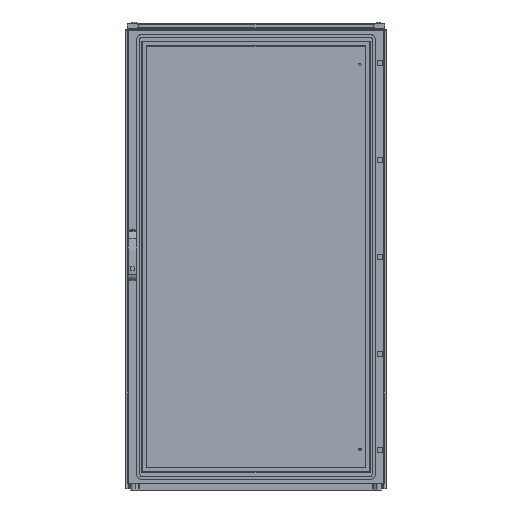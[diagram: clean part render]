
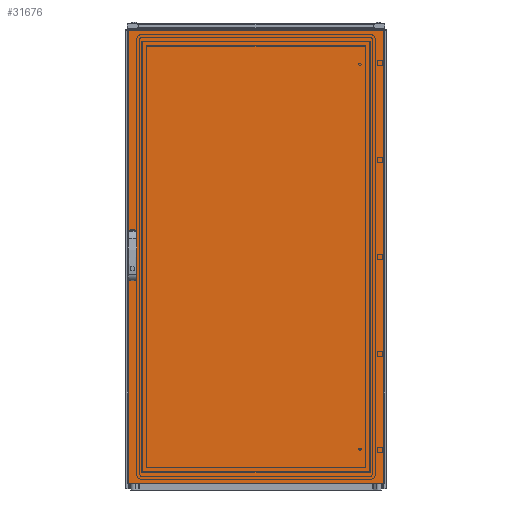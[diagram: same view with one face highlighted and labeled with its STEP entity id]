
A CAD part, front view. The second image highlights one B-rep face of the part: STEP entity #31676.
In plain terms, the highlighted planar face has unit normal (0, -1, 0).
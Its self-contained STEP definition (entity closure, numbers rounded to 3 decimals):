
#1962=CIRCLE('',#34429,9.5);
#1963=CIRCLE('',#34430,9.5);
#1964=CIRCLE('',#34431,9.5);
#1965=CIRCLE('',#34432,9.5);
#8044=ORIENTED_EDGE('',*,*,#14324,.T.);
#8045=ORIENTED_EDGE('',*,*,#14325,.T.);
#8046=ORIENTED_EDGE('',*,*,#14326,.T.);
#8047=ORIENTED_EDGE('',*,*,#14327,.T.);
#8048=ORIENTED_EDGE('',*,*,#14328,.T.);
#8049=ORIENTED_EDGE('',*,*,#14329,.T.);
#8050=ORIENTED_EDGE('',*,*,#14330,.T.);
#8051=ORIENTED_EDGE('',*,*,#14331,.T.);
#8052=ORIENTED_EDGE('',*,*,#14332,.T.);
#8053=ORIENTED_EDGE('',*,*,#14333,.T.);
#8054=ORIENTED_EDGE('',*,*,#14334,.T.);
#8055=ORIENTED_EDGE('',*,*,#14335,.T.);
#14324=EDGE_CURVE('',#17955,#17956,#20949,.T.);
#14325=EDGE_CURVE('',#17956,#17957,#20950,.T.);
#14326=EDGE_CURVE('',#17957,#17958,#20951,.F.);
#14327=EDGE_CURVE('',#17958,#17955,#20952,.F.);
#14328=EDGE_CURVE('',#17959,#17960,#1962,.T.);
#14329=EDGE_CURVE('',#17960,#17961,#20953,.T.);
#14330=EDGE_CURVE('',#17961,#17962,#1963,.T.);
#14331=EDGE_CURVE('',#17962,#17959,#20954,.T.);
#14332=EDGE_CURVE('',#17963,#17964,#1964,.T.);
#14333=EDGE_CURVE('',#17964,#17965,#20955,.T.);
#14334=EDGE_CURVE('',#17965,#17966,#1965,.T.);
#14335=EDGE_CURVE('',#17966,#17963,#20956,.T.);
#17955=VERTEX_POINT('',#51174);
#17956=VERTEX_POINT('',#51175);
#17957=VERTEX_POINT('',#51177);
#17958=VERTEX_POINT('',#51179);
#17959=VERTEX_POINT('',#51182);
#17960=VERTEX_POINT('',#51183);
#17961=VERTEX_POINT('',#51185);
#17962=VERTEX_POINT('',#51187);
#17963=VERTEX_POINT('',#51190);
#17964=VERTEX_POINT('',#51191);
#17965=VERTEX_POINT('',#51193);
#17966=VERTEX_POINT('',#51195);
#20949=LINE('',#51173,#23656);
#20950=LINE('',#51176,#23657);
#20951=LINE('',#51178,#23658);
#20952=LINE('',#51180,#23659);
#20953=LINE('',#51184,#23660);
#20954=LINE('',#51188,#23661);
#20955=LINE('',#51192,#23662);
#20956=LINE('',#51196,#23663);
#23656=VECTOR('',#41546,1000.);
#23657=VECTOR('',#41547,1000.);
#23658=VECTOR('',#41548,1000.);
#23659=VECTOR('',#41549,1000.);
#23660=VECTOR('',#41552,1000.);
#23661=VECTOR('',#41555,1000.);
#23662=VECTOR('',#41558,1000.);
#23663=VECTOR('',#41561,1000.);
#25970=EDGE_LOOP('',(#8044,#8045,#8046,#8047));
#25971=EDGE_LOOP('',(#8048,#8049,#8050,#8051));
#25972=EDGE_LOOP('',(#8052,#8053,#8054,#8055));
#28568=FACE_BOUND('',#25970,.T.);
#28569=FACE_BOUND('',#25971,.T.);
#28570=FACE_BOUND('',#25972,.T.);
#30377=PLANE('',#34428);
#31676=ADVANCED_FACE('',(#28568,#28569,#28570),#30377,.F.);
#34428=AXIS2_PLACEMENT_3D('',#51172,#41544,#41545);
#34429=AXIS2_PLACEMENT_3D('',#51181,#41550,#41551);
#34430=AXIS2_PLACEMENT_3D('',#51186,#41553,#41554);
#34431=AXIS2_PLACEMENT_3D('',#51189,#41556,#41557);
#34432=AXIS2_PLACEMENT_3D('',#51194,#41559,#41560);
#41544=DIRECTION('',(0.,1.,0.));
#41545=DIRECTION('',(0.,0.,1.));
#41546=DIRECTION('',(0.,0.,-1.));
#41547=DIRECTION('',(1.,0.,0.));
#41548=DIRECTION('',(0.,0.,-1.));
#41549=DIRECTION('',(1.,0.,0.));
#41550=DIRECTION('',(0.,1.,0.));
#41551=DIRECTION('',(1.,0.,0.));
#41552=DIRECTION('',(0.,0.,1.));
#41553=DIRECTION('',(0.,1.,0.));
#41554=DIRECTION('',(1.,0.,0.));
#41555=DIRECTION('',(0.,0.,-1.));
#41556=DIRECTION('',(0.,1.,0.));
#41557=DIRECTION('',(1.,0.,0.));
#41558=DIRECTION('',(0.,0.,1.));
#41559=DIRECTION('',(0.,1.,0.));
#41560=DIRECTION('',(1.,0.,0.));
#41561=DIRECTION('',(0.,0.,-1.));
#51172=CARTESIAN_POINT('',(-497.5,-19.,880.));
#51173=CARTESIAN_POINT('',(-494.5,-19.,880.));
#51174=CARTESIAN_POINT('',(-494.5,-19.,877.));
#51175=CARTESIAN_POINT('',(-494.5,-19.,-877.));
#51176=CARTESIAN_POINT('',(-497.5,-19.,-877.));
#51177=CARTESIAN_POINT('',(494.5,-19.,-877.));
#51178=CARTESIAN_POINT('',(494.5,-19.,880.));
#51179=CARTESIAN_POINT('',(494.5,-19.,877.));
#51180=CARTESIAN_POINT('',(-497.5,-19.,877.));
#51181=CARTESIAN_POINT('',(-478.3,-19.,32.25));
#51182=CARTESIAN_POINT('',(-468.8,-19.,32.25));
#51183=CARTESIAN_POINT('',(-487.8,-19.,32.25));
#51184=CARTESIAN_POINT('',(-487.8,-19.,32.25));
#51185=CARTESIAN_POINT('',(-487.8,-19.,80.25));
#51186=CARTESIAN_POINT('',(-478.3,-19.,80.25));
#51187=CARTESIAN_POINT('',(-468.8,-19.,80.25));
#51188=CARTESIAN_POINT('',(-468.8,-19.,80.25));
#51189=CARTESIAN_POINT('',(-478.3,-19.,-80.25));
#51190=CARTESIAN_POINT('',(-468.8,-19.,-80.25));
#51191=CARTESIAN_POINT('',(-487.8,-19.,-80.25));
#51192=CARTESIAN_POINT('',(-487.8,-19.,-80.25));
#51193=CARTESIAN_POINT('',(-487.8,-19.,-32.25));
#51194=CARTESIAN_POINT('',(-478.3,-19.,-32.25));
#51195=CARTESIAN_POINT('',(-468.8,-19.,-32.25));
#51196=CARTESIAN_POINT('',(-468.8,-19.,-32.25));
